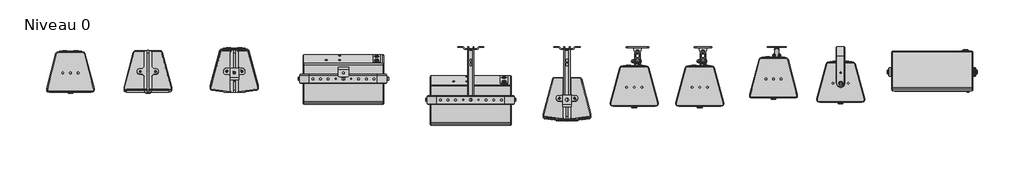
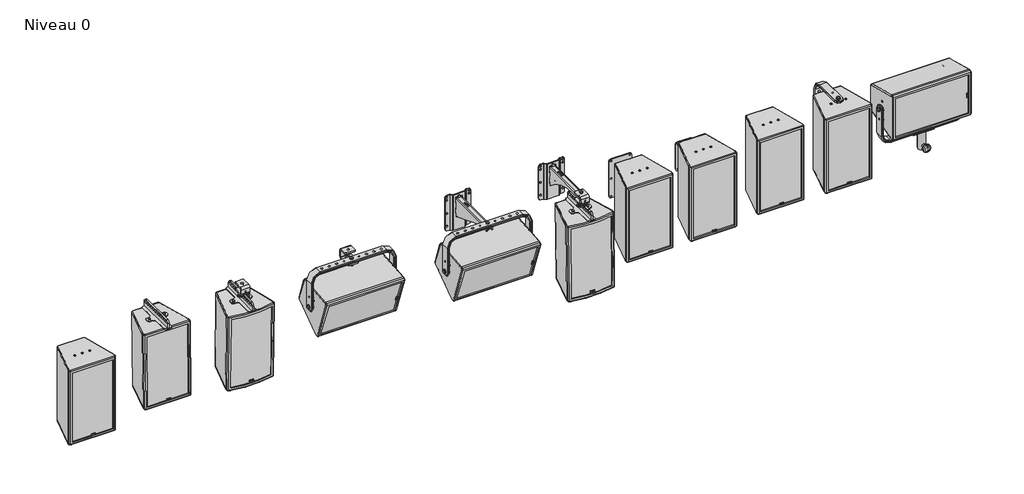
# One storey, incomplete: 11 proxies.
"""IFC4 building model written with IfcOpenShell, lengths in millimetres."""

from ifc_helpers import new_model, si_unit, origin, place, context, project, spatial, transform, mapped, element, save
from components import generic_models_77f78af2, generic_models_769fed6e, generic_models_3f4bfca9, generic_models_3442bc40, generic_models_2c264fad, generic_models_c327c4cc, generic_models_a4b86c65, generic_models_87593104, generic_models_452a7467, generic_models_e8bc4f5e, generic_models_40b17b7d, generic_models_5a3a644b, generic_models_2b0026ec, generic_models_b3d32950, generic_models_8d1e662f, generic_models_77c1a001, eps8_vertical_fe91d972, pos_6_240014a1, pos_6_c2b1cb6c, pos_6_8ef66853, pos_6_3f01e1d3, pos6_5199c8cc, pos6_370ce32c

model = new_model("IFC4")

# Units and contexts
model_context = context("Model", 3, world=origin())
ifc_project = project(units=[si_unit("LENGTHUNIT", "METRE", prefix="MILLI")], contexts=[model_context])

# Site, building, storey
site = spatial("IfcSite", under=ifc_project)
building = spatial("IfcBuilding", under=site)
storey = spatial("IfcBuildingStorey", under=building, Name="Niveau 0", Elevation=0.0)

# Proxies
placement = place(None, origin())
generic_models_shape = generic_models_77f78af2(model_context)
generic_models_2_shape = generic_models_769fed6e(model_context)
element("IfcBuildingElementProxy", 1, Name="ePS8-HBRK425-SHM : ePS8-HBRK425-SHM", ObjectType="ePS8-HBRK425-SHM : ePS8-HBRK425-SHM", at=placement, inside=storey, context=model_context, shape_type="MappedRepresentation", body=[
    mapped(generic_models_shape, transform((8470.2674581, 2819.138846, -400.0), x_axis=(1.0, 0.0, 0.0), y_axis=(0.0, 1.0, 0.0), z_axis=(0.0, 0.0, 1.0))),
    mapped(generic_models_2_shape, transform((8470.2674581, 2819.138846, -400.0), x_axis=(1.0, 0.0, 0.0), y_axis=(0.0, 1.0, 0.0), z_axis=(0.0, 0.0, 1.0))),
])
generic_models_3_shape = generic_models_3f4bfca9(model_context)
generic_models_4_shape = generic_models_3442bc40(model_context)
element("IfcBuildingElementProxy", 2, Name="ePS8-HBRK425-WVM : ePS8-HBRK425-WVM", ObjectType="ePS8-HBRK425-WVM : ePS8-HBRK425-WVM", at=placement, inside=storey, context=model_context, shape_type="MappedRepresentation", body=[
    mapped(generic_models_3_shape, transform((7990.025422, 2952.35479, -250.0), x_axis=(1.0, 0.0, 0.0), y_axis=(0.0, 1.0, 0.0), z_axis=(0.0, 0.0, 1.0))),
    mapped(generic_models_4_shape, transform((7990.025422, 2952.35479, -250.0), x_axis=(1.0, 0.0, 0.0), y_axis=(0.0, 1.0, 0.0), z_axis=(0.0, 0.0, 1.0))),
])
generic_models_5_shape = generic_models_2c264fad(model_context)
generic_models_6_shape = generic_models_c327c4cc(model_context)
element("IfcBuildingElementProxy", 3, Name="ePS8-WB02-WVM : ePS8-WB02-WVM", ObjectType="ePS8-WB02-WVM : ePS8-WB02-WVM", at=placement, inside=storey, context=model_context, shape_type="MappedRepresentation", body=[
    mapped(generic_models_5_shape, transform((7655.8307832, 2952.35479, -250.0), x_axis=(1.0, 0.0, 0.0), y_axis=(0.0, 1.0, 0.0), z_axis=(0.0, 0.0, 1.0))),
    mapped(generic_models_6_shape, transform((7655.8307832, 2952.35479, -250.0), x_axis=(1.0, 0.0, 0.0), y_axis=(0.0, 1.0, 0.0), z_axis=(0.0, 0.0, 1.0))),
])
generic_models_7_shape = generic_models_a4b86c65(model_context)
generic_models_8_shape = generic_models_87593104(model_context)
generic_models_9_shape = generic_models_452a7467(model_context)
element("IfcBuildingElementProxy", 4, Name="ePS8-WM01-WVM : ePS8-WM01-WVM", ObjectType="ePS8-WM01-WVM : ePS8-WM01-WVM", at=placement, inside=storey, context=model_context, shape_type="MappedRepresentation", body=[
    mapped(generic_models_7_shape, transform((7269.5538631, 2952.35479, -200.0), x_axis=(1.0, 0.0, 0.0), y_axis=(0.0, 1.0, 0.0), z_axis=(0.0, 0.0, 1.0))),
    mapped(generic_models_8_shape, transform((7269.5538631, 2952.35479, -200.0), x_axis=(1.0, 0.0, 0.0), y_axis=(0.0, 1.0, 0.0), z_axis=(0.0, 0.0, 1.0))),
    mapped(generic_models_9_shape, transform((7269.5538631, 2952.35479, -200.0), x_axis=(1.0, 0.0, 0.0), y_axis=(0.0, 1.0, 0.0), z_axis=(0.0, 0.0, 1.0))),
])
generic_models_10_shape = generic_models_e8bc4f5e(model_context)
generic_models_11_shape = generic_models_40b17b7d(model_context)
element("IfcBuildingElementProxy", 5, Name="ePS8-WM02-WVM : ePS8-WM02-WVM", ObjectType="ePS8-WM02-WVM : ePS8-WM02-WVM", at=placement, inside=storey, context=model_context, shape_type="MappedRepresentation", body=[
    mapped(generic_models_7_shape, transform((6926.6788441, 2952.35479, -200.0), x_axis=(1.0, 0.0, 0.0), y_axis=(0.0, 1.0, 0.0), z_axis=(0.0, 0.0, 1.0))),
    mapped(generic_models_10_shape, transform((6926.6788441, 2952.35479, -200.0), x_axis=(1.0, 0.0, 0.0), y_axis=(0.0, 1.0, 0.0), z_axis=(0.0, 0.0, 1.0))),
    mapped(generic_models_11_shape, transform((6926.6788441, 2952.35479, -200.0), x_axis=(1.0, 0.0, 0.0), y_axis=(0.0, 1.0, 0.0), z_axis=(0.0, 0.0, 1.0))),
])
generic_models_12_shape = generic_models_5a3a644b(model_context)
generic_models_13_shape = generic_models_2b0026ec(model_context)
element("IfcBuildingElementProxy", 6, Name="ePS8-HBRK425-CHM : ePS8-HBRK425-CHM", ObjectType="ePS8-HBRK425-CHM : ePS8-HBRK425-CHM", at=placement, inside=storey, context=model_context, shape_type="MappedRepresentation", body=[
    mapped(generic_models_12_shape, transform((5387.4756706, 2814.1476274, 0.0), x_axis=(1.0, 0.0, 0.0), y_axis=(0.0, 1.0, 0.0), z_axis=(0.0, 0.0, 1.0))),
    mapped(generic_models_13_shape, transform((5387.4756706, 2814.1476274, 0.0), x_axis=(1.0, 0.0, 0.0), y_axis=(0.0, 1.0, 0.0), z_axis=(0.0, 0.0, 1.0))),
])
generic_models_14_shape = generic_models_b3d32950(model_context)
generic_models_15_shape = generic_models_8d1e662f(model_context)
generic_models_16_shape = generic_models_77c1a001(model_context)
element("IfcBuildingElementProxy", 7, Name="ePS8-WM280-HBRK425-WHM : ePS8-WM280-HBRK425-WHM", ObjectType="ePS8-WM280-HBRK425-WHM : ePS8-WM280-HBRK425-WHM", at=placement, inside=storey, context=model_context, shape_type="MappedRepresentation", body=[
    mapped(generic_models_14_shape, transform((6054.3006312, 2952.35479, 0.0), x_axis=(1.0, 0.0, 0.0), y_axis=(0.0, 1.0, 0.0), z_axis=(0.0, 0.0, 1.0))),
    mapped(generic_models_15_shape, transform((6054.3006312, 2952.35479, 0.0), x_axis=(1.0, 0.0, 0.0), y_axis=(0.0, 1.0, 0.0), z_axis=(0.0, 0.0, 1.0))),
    mapped(generic_models_16_shape, transform((6054.3006312, 2952.35479, 0.0), x_axis=(1.0, 0.0, 0.0), y_axis=(0.0, 1.0, 0.0), z_axis=(0.0, 0.0, 1.0))),
])
eps8_vertical_shape = eps8_vertical_fe91d972(model_context)
element("IfcBuildingElementProxy", 8, Name="ePS8 : Vertical", ObjectType="ePS8 : Vertical", at=placement, inside=storey, context=model_context, shape_type="MappedRepresentation", body=[
    mapped(eps8_vertical_shape, transform((3958.4094903, 2814.1476274, -300.0), x_axis=(1.0, 0.0, 0.0), y_axis=(0.0, 1.0, 0.0), z_axis=(0.0, 0.0, 1.0))),
])
pos_6_shape = pos_6_240014a1(model_context)
element("IfcBuildingElementProxy", 9, Name="ePS8-BUMP-TRUSSVM : pos 6", ObjectType="ePS8-BUMP-TRUSSVM : pos 6", at=placement, inside=storey, context=model_context, shape_type="MappedRepresentation", body=[
    mapped(pos_6_shape, transform((4363.934665, 2814.1476274, 0.0), x_axis=(1.0, 0.0, 0.0), y_axis=(0.0, 1.0, 0.0), z_axis=(0.0, 0.0, 1.0))),
])
pos_6_2_shape = pos_6_c2b1cb6c(model_context)
pos_6_3_shape = pos_6_8ef66853(model_context)
pos_6_4_shape = pos_6_3f01e1d3(model_context)
element("IfcBuildingElementProxy", 10, Name="ePS8-WM280-BUMP-WVM : pos 6", ObjectType="ePS8-WM280-BUMP-WVM : pos 6", at=placement, inside=storey, context=model_context, shape_type="MappedRepresentation", body=[
    mapped(pos_6_2_shape, transform((6557.7626844, 2952.35479, 0.0), x_axis=(1.0, 0.0, 0.0), y_axis=(0.0, 1.0, 0.0), z_axis=(0.0, 0.0, 1.0))),
    mapped(pos_6_3_shape, transform((6557.7626844, 2952.35479, 0.0), x_axis=(1.0, 0.0, 0.0), y_axis=(0.0, 1.0, 0.0), z_axis=(0.0, 0.0, 1.0))),
    mapped(pos_6_4_shape, transform((6557.7626844, 2952.35479, 0.0), x_axis=(1.0, 0.0, 0.0), y_axis=(0.0, 1.0, 0.0), z_axis=(0.0, 0.0, 1.0))),
])
pos6_shape = pos6_5199c8cc(model_context)
pos6_2_shape = pos6_370ce32c(model_context)
element("IfcBuildingElementProxy", 11, Name="ePS8-BUMP-CVM : pos6", ObjectType="ePS8-BUMP-CVM : pos6", at=placement, inside=storey, context=model_context, shape_type="MappedRepresentation", body=[
    mapped(pos6_shape, transform((4816.2080238, 2814.1476274, 0.0), x_axis=(1.0, 0.0, 0.0), y_axis=(0.0, 1.0, 0.0), z_axis=(0.0, 0.0, 1.0))),
    mapped(pos6_2_shape, transform((4816.2080238, 2814.1476274, 0.0), x_axis=(1.0, 0.0, 0.0), y_axis=(0.0, 1.0, 0.0), z_axis=(0.0, 0.0, 1.0))),
])

save(model, "model.ifc")
